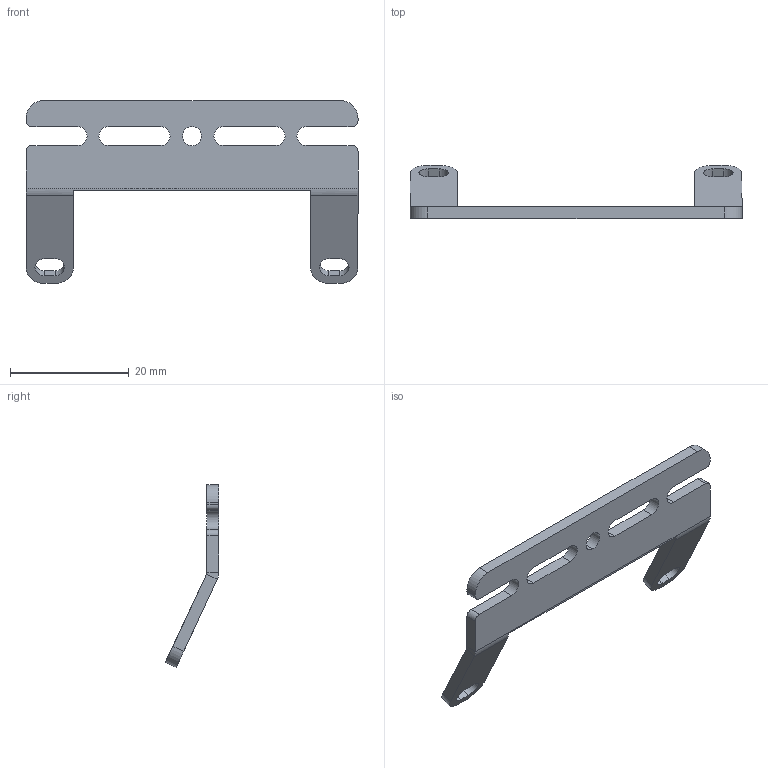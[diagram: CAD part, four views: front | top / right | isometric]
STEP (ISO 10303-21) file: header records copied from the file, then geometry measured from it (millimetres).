
FILE_DESCRIPTION (( 'STEP AP203' ), '1' );
FILE_NAME ('閡僅訇蚾鍼踢.STEP', '2025-09-09T08:19:25', ( '' ), ( '' ), 'SwSTEP 2.0', 'SolidWorks 2020', '' );
FILE_SCHEMA (( 'CONFIG_CONTROL_DESIGN' ));
Length unit declared in the file: millimetre
Products named in the file (1): 閡僅訇蚾鍼踢
Bounding box: 56 x 9 x 30.86 mm (x, y, z)
Volume: 1855.6 mm3; surface area: 2518.9 mm2
Topology: 1 solids, 1 shells, 58 faces, 156 edges, 100 vertices
Faces by surface type: plane 34, cylinder 24
Entity records: 1913 total; most frequent: DIRECTION 326, CARTESIAN_POINT 315, ORIENTED_EDGE 312, EDGE_CURVE 156, AXIS2_PLACEMENT_3D 111, LINE 104, VECTOR 104, VERTEX_POINT 100
